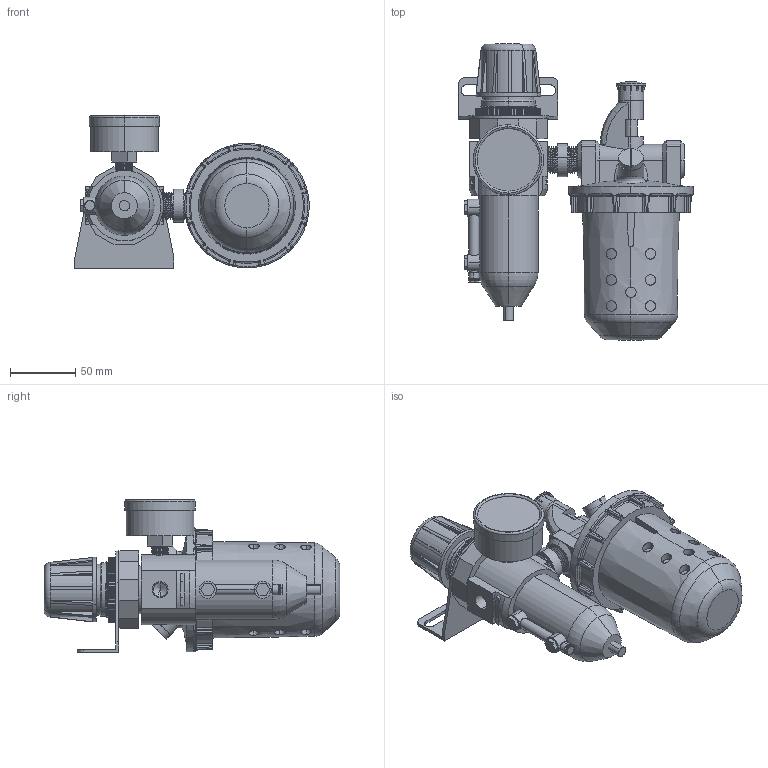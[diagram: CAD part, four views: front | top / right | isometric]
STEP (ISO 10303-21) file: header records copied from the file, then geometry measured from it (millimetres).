
FILE_DESCRIPTION (( 'STEP AP203' ), '1' );
FILE_NAME ('U658-04#YB#.STEP', '2016-01-14T17:17:23', ( '' ), ( '' ), 'SwSTEP 2.0', 'SolidWorks 2014', '' );
FILE_SCHEMA (( 'CONFIG_CONTROL_DESIGN' ));
Length unit declared in the file: millimetre
Products named in the file (23): 50-P-AD=1-4PT.SLDPRT; B011W-1; L606-W-06-5; L606-W-06-4; 50-P-AD=1-4PT-2; L606-04; KWR10X51; R010-3; B011W-02#YGB#; R010-4; D011W-5; KWSAR10Y57; L606-W-04-1; 50-P-AD=1-4PT-1; R010-上半部; KWSAR10Y57-1; U658-04#YB#; D011W-4; D011W-04-刻度計; L606-W-06-3; D011W-6; 1-2-圓
Assembly tree (24 placements, depth 5):
  U658-04#YB#
    B011W-02#YGB#
      B011W-1
      50-P-AD=1-4PT.SLDPRT
        50-P-AD=1-4PT-1
        50-P-AD=1-4PT-2
      L606-W-06-5
      R010-上半部
        R010-3
        R010-4
        KWSAR10Y57
          KWSAR10Y57-1
          KWR10X51
      D011W-04-刻度計
        D011W-5  x2
        D011W-4
        D011W-6
    L606-04
      L606-W-06-4
      L606-W-06-3  x2
      L606-W-04-1
      L606-04
    1-2-圓
Bounding box: 179.75 x 227 x 117 mm (x, y, z)
Volume: 1032804.5 mm3; surface area: 141391.2 mm2
Topology: 18 solids, 18 shells, 1225 faces, 3246 edges, 2062 vertices
Faces by surface type: plane 646, cylinder 290, bspline 114, cone 106, torus 39, sphere 30
Entity records: 52800 total; most frequent: CARTESIAN_POINT 21657, ORIENTED_EDGE 6336, DIRECTION 5636, EDGE_CURVE 3168, VERTEX_POINT 2034, AXIS2_PLACEMENT_3D 1962, LINE 1712, VECTOR 1712
